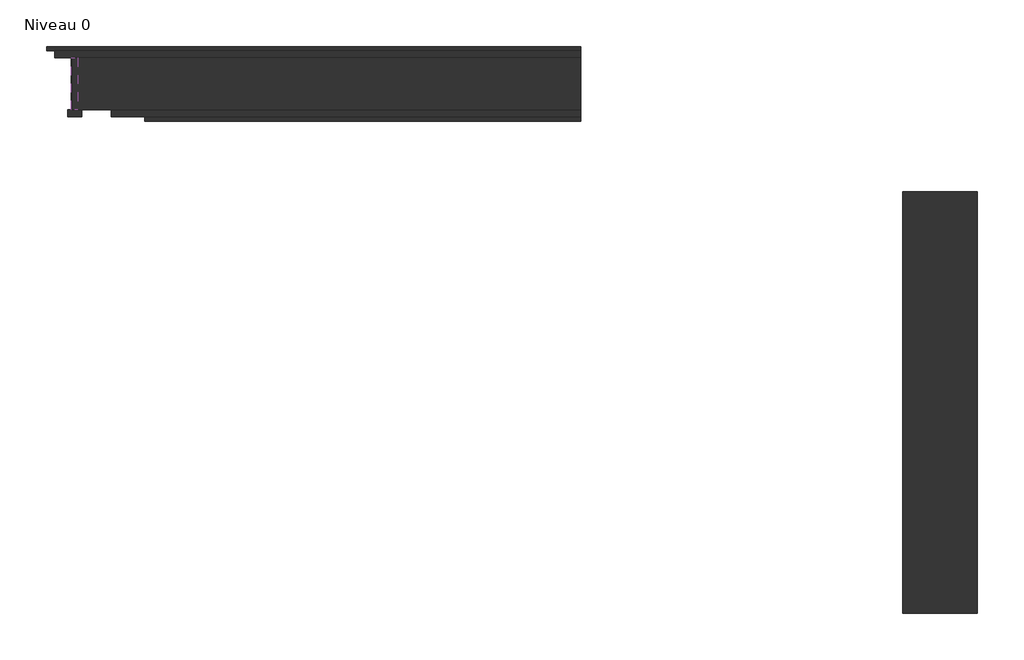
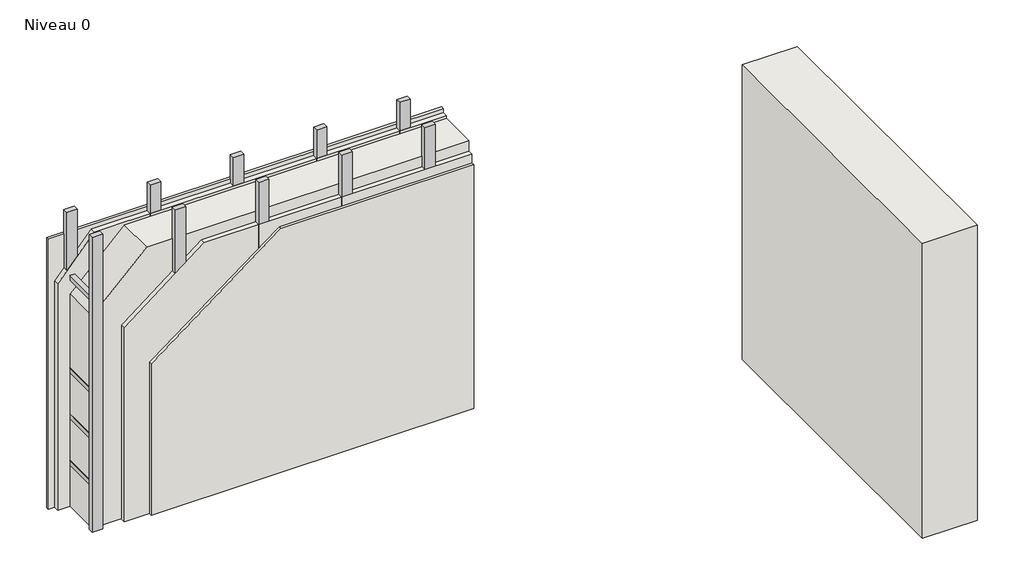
# One storey: 10 columns, 6 walls, 4 beams.
"""IFC4 building model written with IfcOpenShell, lengths in millimetres."""

from ifc_helpers import new_model, si_unit, frame, origin, origin_with_axes, place, context, project, spatial, polyline, outline, extrude, transform, mapped, element, save
from components import beam_45x45_cf2d80d3, column_100x50_49ea09b9

model = new_model("IFC4")

# Units and contexts
model_context = context("Model", 3, world=origin())
ifc_project = project(units=[si_unit("LENGTHUNIT", "METRE", prefix="MILLI")], contexts=[model_context])

# Site, building, storey
site = spatial("IfcSite", under=ifc_project)
building = spatial("IfcBuilding", under=site)
storey = spatial("IfcBuildingStorey", under=building, Name="Niveau 0", Elevation=0.0)

# Beams
placement = place(None, origin())
beam_45x45_shape = beam_45x45_cf2d80d3(model_context)
element("IfcBeam", 1, ObjectType="Poutre - Bois d'oeuvre : 45x45", at=placement, inside=storey, context=model_context, shape_type="MappedRepresentation", body=[
    mapped(beam_45x45_shape, transform((-5915.0543614, -1088.2584766, 2327.5), x_axis=(0.0, -1.0, 0.0), y_axis=(1.0, 0.0, 0.0), z_axis=(0.0, 0.0, 1.0))),
])
element("IfcBeam", 2, ObjectType="Poutre - Bois d'oeuvre : 45x45", at=placement, inside=storey, context=model_context, shape_type="MappedRepresentation", body=[
    mapped(beam_45x45_shape, transform((-5915.0543614, -1088.2584766, 1387.5), x_axis=(0.0, -1.0, 0.0), y_axis=(1.0, 0.0, 0.0), z_axis=(0.0, 0.0, 1.0))),
])
element("IfcBeam", 3, ObjectType="Poutre - Bois d'oeuvre : 45x45", at=placement, inside=storey, context=model_context, shape_type="MappedRepresentation", body=[
    mapped(beam_45x45_shape, transform((-5915.0543614, -1088.2584766, 917.5), x_axis=(0.0, -1.0, 0.0), y_axis=(1.0, 0.0, 0.0), z_axis=(0.0, 0.0, 1.0))),
])
element("IfcBeam", 4, ObjectType="Poutre - Bois d'oeuvre : 45x45", at=placement, inside=storey, context=model_context, shape_type="MappedRepresentation", body=[
    mapped(beam_45x45_shape, transform((-5915.0543614, -1088.2584766, 447.5), x_axis=(0.0, -1.0, 0.0), y_axis=(1.0, 0.0, 0.0), z_axis=(0.0, 0.0, 1.0))),
])

# Columns
column_100x50_shape = column_100x50_49ea09b9(model_context)
element("IfcColumn", 5, ObjectType="Bois - Bois de construction de dimensions courantes : 100x50", at=placement, inside=storey, context=model_context, shape_type="MappedRepresentation", body=[
    mapped(column_100x50_shape, transform((-5915.0543614, -878.2584766, 0.0), x_axis=(1.0, 0.0, 0.0), y_axis=(0.0, 1.0, 0.0), z_axis=(0.0, 0.0, 1.0))),
])
element("IfcColumn", 6, ObjectType="Bois - Bois de construction de dimensions courantes : 100x50", at=placement, inside=storey, context=model_context, shape_type="MappedRepresentation", body=[
    mapped(column_100x50_shape, transform((-5915.0543614, -1298.2584766, 0.0), x_axis=(1.0, 0.0, 0.0), y_axis=(0.0, 1.0, 0.0), z_axis=(0.0, 0.0, 1.0))),
])
element("IfcColumn", 7, ObjectType="Bois - Bois de construction de dimensions courantes : 100x50", at=placement, inside=storey, context=model_context, shape_type="MappedRepresentation", body=[
    mapped(column_100x50_shape, transform((-5115.0543614, -878.2584766, 0.0), x_axis=(1.0, 0.0, 0.0), y_axis=(0.0, 1.0, 0.0), z_axis=(0.0, 0.0, 1.0))),
])
element("IfcColumn", 8, ObjectType="Bois - Bois de construction de dimensions courantes : 100x50", at=placement, inside=storey, context=model_context, shape_type="MappedRepresentation", body=[
    mapped(column_100x50_shape, transform((-5115.0543614, -1298.2584766, 0.0), x_axis=(1.0, 0.0, 0.0), y_axis=(0.0, 1.0, 0.0), z_axis=(0.0, 0.0, 1.0))),
])
element("IfcColumn", 9, ObjectType="Bois - Bois de construction de dimensions courantes : 100x50", at=placement, inside=storey, context=model_context, shape_type="MappedRepresentation", body=[
    mapped(column_100x50_shape, transform((-4315.0543614, -878.2584766, 0.0), x_axis=(1.0, 0.0, 0.0), y_axis=(0.0, 1.0, 0.0), z_axis=(0.0, 0.0, 1.0))),
])
element("IfcColumn", 10, ObjectType="Bois - Bois de construction de dimensions courantes : 100x50", at=placement, inside=storey, context=model_context, shape_type="MappedRepresentation", body=[
    mapped(column_100x50_shape, transform((-4315.0543614, -1298.2584766, 0.0), x_axis=(1.0, 0.0, 0.0), y_axis=(0.0, 1.0, 0.0), z_axis=(0.0, 0.0, 1.0))),
])
element("IfcColumn", 11, ObjectType="Bois - Bois de construction de dimensions courantes : 100x50", at=placement, inside=storey, context=model_context, shape_type="MappedRepresentation", body=[
    mapped(column_100x50_shape, transform((-3515.0543614, -878.2584766, 0.0), x_axis=(1.0, 0.0, 0.0), y_axis=(0.0, 1.0, 0.0), z_axis=(0.0, 0.0, 1.0))),
])
element("IfcColumn", 12, ObjectType="Bois - Bois de construction de dimensions courantes : 100x50", at=placement, inside=storey, context=model_context, shape_type="MappedRepresentation", body=[
    mapped(column_100x50_shape, transform((-3515.0543614, -1298.2584766, 0.0), x_axis=(1.0, 0.0, 0.0), y_axis=(0.0, 1.0, 0.0), z_axis=(0.0, 0.0, 1.0))),
])
element("IfcColumn", 13, ObjectType="Bois - Bois de construction de dimensions courantes : 100x50", at=placement, inside=storey, context=model_context, shape_type="MappedRepresentation", body=[
    mapped(column_100x50_shape, transform((-2715.0543614, -878.2584766, 0.0), x_axis=(1.0, 0.0, 0.0), y_axis=(0.0, 1.0, 0.0), z_axis=(0.0, 0.0, 1.0))),
])
element("IfcColumn", 14, ObjectType="Bois - Bois de construction de dimensions courantes : 100x50", at=placement, inside=storey, context=model_context, shape_type="MappedRepresentation", body=[
    mapped(column_100x50_shape, transform((-2715.0543614, -1298.2584766, 0.0), x_axis=(1.0, 0.0, 0.0), y_axis=(0.0, 1.0, 0.0), z_axis=(0.0, 0.0, 1.0))),
])

# Walls
element("IfcWall", 15, ObjectType="Mortier coulé", at=placement, inside=storey, context=model_context, shape_type="SweptSolid", body=[
    extrude(outline(polyline([(0.0, -6055.3588823), (0.0, -2315.0543614), (2710.0, -2315.0543614), (2710.0, -5703.2977535), (2305.0, -6055.3588823), (0.0, -6055.3588823)])), frame((0.0, -903.2584766, 0.0), z_axis=(0.0, 1.0, 0.0), x_axis=(0.0, 0.0, 1.0)), (0.0, 0.0, 1.0), 50.0),
])
element("IfcWall", 16, ObjectType="Botte de paille", at=placement, inside=storey, context=model_context, shape_type="SweptSolid", body=[
    extrude(outline(polyline([(0.0, -5933.4638423), (0.0, -2315.0543614), (2680.0, -2315.0543614), (2680.0, -5413.4638423), (2160.0, -5933.4638423), (0.0, -5933.4638423)])), frame((0.0, -1273.2584766, 0.0), z_axis=(0.0, 1.0, 0.0), x_axis=(0.0, 0.0, 1.0)), (0.0, 0.0, 1.0), 370.0),
])
element("IfcWall", 17, ObjectType="Enduit à la chaux", at=placement, inside=storey, context=model_context, shape_type="SweptSolid", body=[
    extrude(outline(polyline([(0.0, -5415.0543614), (0.0, -2315.0543614), (2480.0, -2315.0543614), (2480.0, -4166.6728089), (1539.2770251, -5415.0543614), (0.0, -5415.0543614)])), frame((0.0, -1353.2584766, 0.0), z_axis=(0.0, 1.0, 0.0), x_axis=(0.0, 0.0, 1.0)), (0.0, 0.0, 1.0), 30.0),
])
element("IfcWall", 18, ObjectType="Mortier coulé", at=placement, inside=storey, context=model_context, shape_type="SweptSolid", body=[
    extrude(outline(polyline([(0.0, -5655.3588823), (0.0, -2315.0543614), (2570.0, -2315.0543614), (2570.0, -4886.3103945), (1969.1534704, -5655.3588823), (0.0, -5655.3588823)])), frame((0.0, -1323.2584766, 0.0), z_axis=(0.0, 1.0, 0.0), x_axis=(0.0, 0.0, 1.0)), (0.0, 0.0, 1.0), 50.0),
])
element("IfcWall", 19, ObjectType="Enduit à la chaux", at=placement, inside=storey, context=model_context, shape_type="SweptSolid", body=[
    extrude(outline(polyline([(-2315.0543614, -853.2584766), (-6115.0543614, -853.2584766), (-6115.0543614, -823.2584766), (-2315.0543614, -823.2584766), (-2315.0543614, -853.2584766)])), origin_with_axes(), (0.0, 0.0, 1.0), 2750.0),
])
element("IfcWall", 20, ObjectType="SBW_03", at=placement, inside=storey, context=model_context, shape_type="SweptSolid", body=[
    extrude(outline(polyline([(-20.8062547, -4855.5228881), (-20.8062547, -1855.5228881), (509.1937453, -1855.5228881), (509.1937453, -4855.5228881), (-20.8062547, -4855.5228881)])), origin_with_axes(), (0.0, 0.0, 1.0), 3000.0),
])

save(model, "model.ifc")
